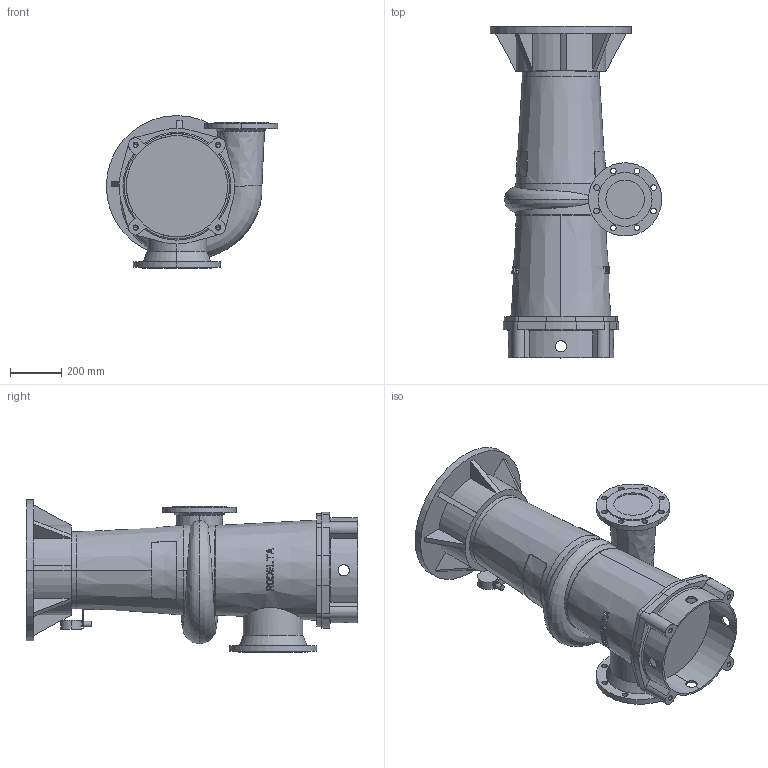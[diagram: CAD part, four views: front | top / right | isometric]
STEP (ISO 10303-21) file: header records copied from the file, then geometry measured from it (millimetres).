
FILE_DESCRIPTION((''),'2;1');
FILE_NAME('7410_VOOR_BLAD_ASM','2024-07-24T',('Lyritlocal'),(''),'PRO/ENGINEER BY PARAMETRIC TECHNOLOGY CORPORATION, 2016360','PRO/ENGINEER BY PARAMETRIC TECHNOLOGY CORPORATION, 2016360','');
FILE_SCHEMA(('CONFIG_CONTROL_DESIGN'));
Length unit declared in the file: millimetre
Products named in the file (3): 7410; 7410_VOET; 7410_VOOR_BLAD_ASM
Assembly tree (2 placements, depth 2):
  7410_VOOR_BLAD_ASM
    7410
    7410_VOET
Bounding box: 667.5 x 1292 x 595 mm (x, y, z)
Volume: 142858668 mm3; surface area: 3346063.5 mm2
Topology: 2 solids, 6 shells, 554 faces, 1491 edges, 983 vertices
Faces by surface type: plane 368, cylinder 138, cone 38, bspline 6, torus 4
Entity records: 19705 total; most frequent: CARTESIAN_POINT 6220, ORIENTED_EDGE 2950, DIRECTION 2529, EDGE_CURVE 1483, VERTEX_POINT 983, AXIS2_PLACEMENT_3D 961, EDGE_LOOP 646, VECTOR 607
